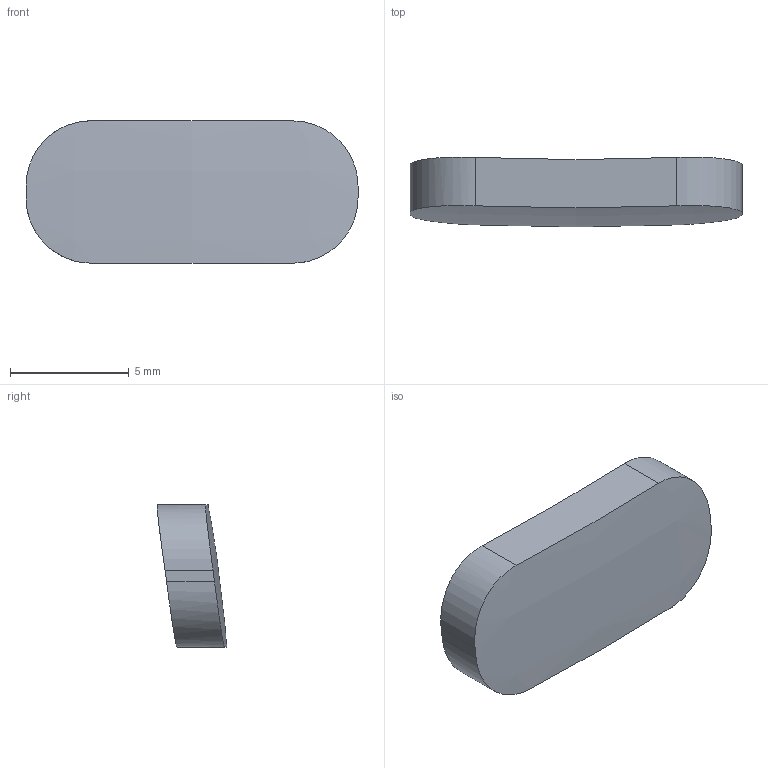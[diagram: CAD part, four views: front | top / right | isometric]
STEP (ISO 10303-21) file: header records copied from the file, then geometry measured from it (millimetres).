
FILE_DESCRIPTION(('Open CASCADE Model'),'2;1');
FILE_NAME('Open CASCADE Shape Model','2026-11-11T21:47:29',('Author'),( 'Open CASCADE'),'Open CASCADE STEP processor 8.0','build123d', 'Unknown');
FILE_SCHEMA(('AUTOMOTIVE_DESIGN { 1 0 10303 214 1 1 1 1 }'));
Length unit declared in the file: millimetre
Products named in the file (1): SOLID
Bounding box: 14 x 2.93 x 6 mm (x, y, z)
Volume: 156.6 mm3; surface area: 228 mm2
Topology: 1 solids, 1 shells, 10 faces, 25 edges, 17 vertices
Faces by surface type: plane 4, cylinder 4, bspline 2
Entity records: 19128 total; most frequent: CARTESIAN_POINT 18709, B_SPLINE_CURVE_WITH_KNOTS 51, ORIENTED_EDGE 50, PCURVE 50, DEFINITIONAL_REPRESENTATION 50, DIRECTION 42, EDGE_CURVE 25, SURFACE_CURVE 25
